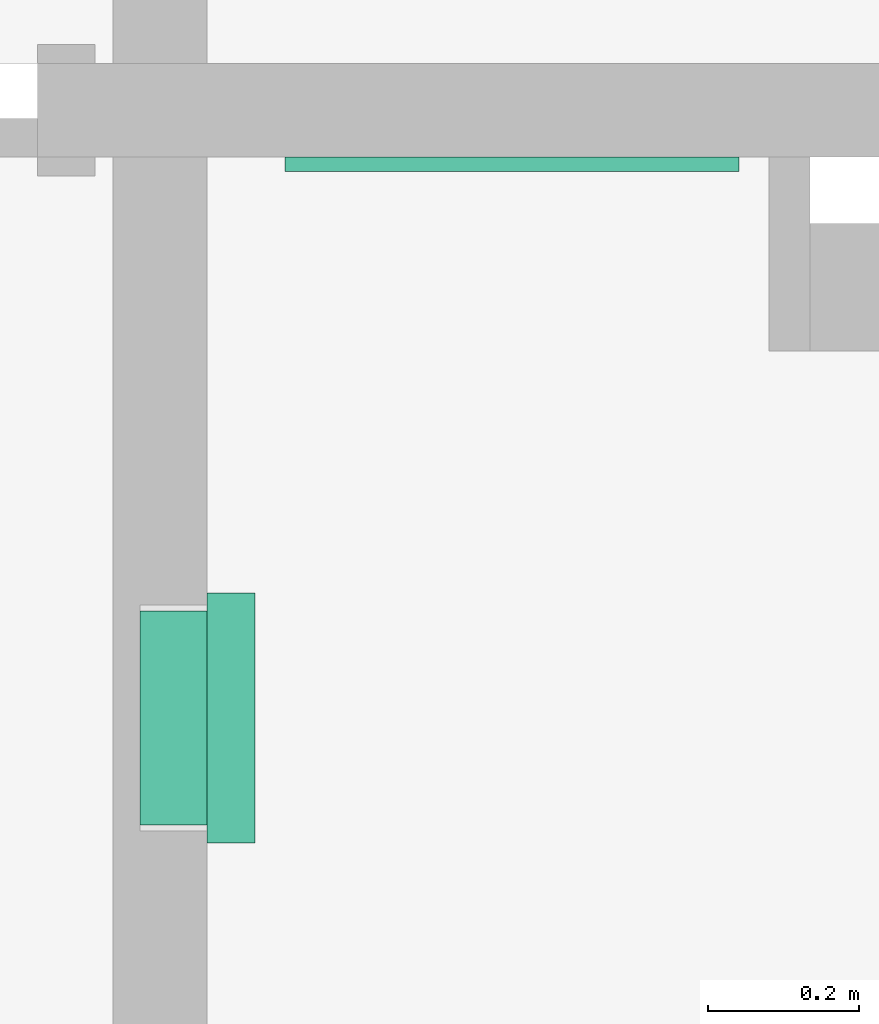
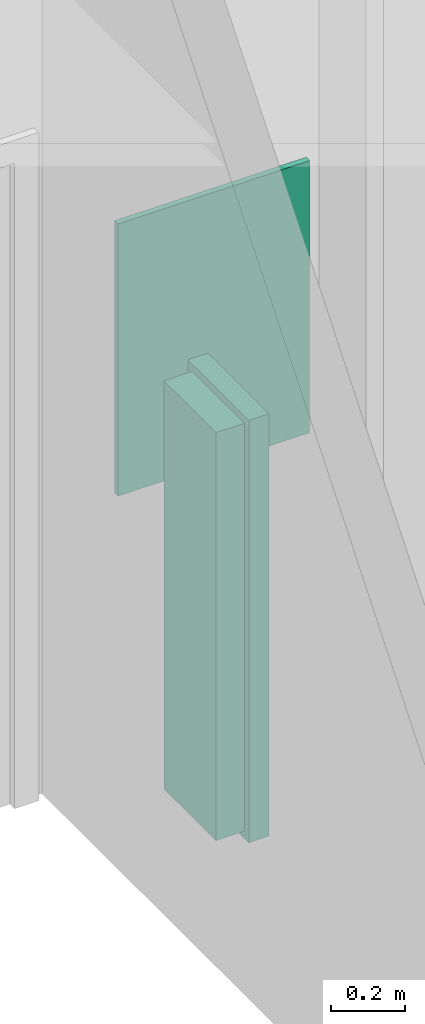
# One storey, part 32 of 47: 2 flow terminals.
"""IFC2X3 building model written with IfcOpenShell, lengths in metres."""

from ifc_helpers import new_model, entity, si_unit, converted_unit, frame, origin, origin_2d_with_axis, place, context, project, spatial, rectangle, extrude, face_set, surface_model, source, transform, mapped, type_object, type_shapes, element, save


model = new_model("IFC2X3")

# Units and contexts
model_context = context("Model", 3, precision=1e-09, world=origin())
plan_context = context("Plan", 3, precision=1e-09, world=origin())
ifc_project = project(units=[si_unit("LENGTHUNIT", "METRE"), si_unit("AREAUNIT", "SQUARE_METRE"), si_unit("VOLUMEUNIT", "CUBIC_METRE"), converted_unit("PLANEANGLEUNIT", "DEGREE", entity("IfcRatioMeasure", 0.01745329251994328), si_unit("PLANEANGLEUNIT", "RADIAN"), dimensions=[0, 0, 0, 0, 0, 0, 0]), si_unit("TIMEUNIT", "SECOND")], contexts=[model_context, plan_context])

# Site, building, storey, space
site_placement = place(None, origin())
site = spatial("IfcSite", under=ifc_project, at=site_placement, Name="Default", CompositionType="ELEMENT")
building_placement = place(site_placement, origin())
building = spatial("IfcBuilding", under=site, at=building_placement, CompositionType="ELEMENT")
storey_placement = place(building_placement, frame((0.0, 0.0, 4.570000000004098)))
storey = spatial("IfcBuildingStorey", under=building, at=storey_placement, Name="Second Floor", CompositionType="ELEMENT", Elevation=4.570000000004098)
space_placement = place(storey_placement, origin())
space = spatial("IfcSpace", under=storey, at=space_placement, Name="2D13", CompositionType="ELEMENT", InteriorOrExteriorSpace="INTERNAL")

# Flow terminals
sanitary_terminal_type_1 = type_object("IfcSanitaryTerminalType", Name="Mirror 600mm x 900mm", PredefinedType="NOTDEFINED")
shared_shape_1 = source(origin(), model_context, "Body", "SweptSolid", [
    extrude(rectangle(XDim=0.01905, YDim=0.5999999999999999, at=origin_2d_with_axis()), frame((0.02447030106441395, 0.071525, 1.0), z_axis=(0.0, 0.0, 1.0), x_axis=(0.0, -1.0, 0.0)), (0.0, 0.0, 1.0), 0.8999999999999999),
])
type_shapes(sanitary_terminal_type_1, [shared_shape_1])
flow_terminal_1_placement = place(space_placement, frame((-42.55883278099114, 13.6424387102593, -0.08499999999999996), z_axis=(0.0, 0.0, 1.0), x_axis=(-1.0, 0.0, 0.0)))
element("IfcFlowTerminal", 1, at=flow_terminal_1_placement, inside=space, type_object=sanitary_terminal_type_1, Name="M_Mirror:Mirror 600mm x 900mm:Mirror 600mm x 900mm", ObjectType="Mirror 600mm x 900mm", context=model_context, shape_type="MappedRepresentation", body=[
    mapped(shared_shape_1, transform((0.0, 0.0, 0.0), scale=1.0)),
])
sanitary_terminal_type_2 = type_object("IfcSanitaryTerminalType", Name="Semi-Recessed", PredefinedType="NOTDEFINED")
shared_shape_2 = source(origin(), model_context, "Body", "SurfaceModel", [
    surface_model("IfcFaceBasedSurfaceModel", [(0.3047999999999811, 1.371600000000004, 0.006350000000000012), (0.02539999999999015, 1.371600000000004, 0.006350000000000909), (0.02539999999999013, 0.02540000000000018, 0.006350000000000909), (0.3047999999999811, 0.02540000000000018, 0.006350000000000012), (0.3047999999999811, 1.371600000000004, 0.0), (0.02539999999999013, 1.371600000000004, 0.0), (0.02539999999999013, 0.02540000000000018, 0.0), (0.3047999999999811, 0.02540000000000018, 0.0), (0.3047999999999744, 0.8683625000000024, 0.0314087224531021), (0.304799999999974, 0.8683625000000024, 0.0), (0.304799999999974, 1.371600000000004, 0.0), (0.3047999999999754, 1.371600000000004, 0.1396999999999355), (0.3047999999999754, 0.9274310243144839, 0.139699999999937), (0.3047999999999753, 0.9028355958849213, 0.1191121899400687), (0.304799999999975, 0.8840898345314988, 0.09308548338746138), (0.3047999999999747, 0.8723562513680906, 0.06323391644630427), (0.02539999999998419, 0.8683625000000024, 0.03140872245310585), (0.02539999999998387, 0.8683625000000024, 0.0), (0.02539999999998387, 1.371600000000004, 0.0), (0.02539999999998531, 1.371600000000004, 0.1396999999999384), (0.02539999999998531, 0.9274310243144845, 0.1396999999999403), (0.02539999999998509, 0.9028355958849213, 0.1191121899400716), (0.02539999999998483, 0.8840898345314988, 0.09308548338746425), (0.02539999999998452, 0.8723562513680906, 0.06323391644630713), (0.1650999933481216, 0.8971245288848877, 0.1125374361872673), (0.244423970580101, 0.8850007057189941, 0.0947267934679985), (0.3048000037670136, 0.8934627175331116, 0.1060988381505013), (0.225727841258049, 0.8897196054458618, 0.1024402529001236), (0.1240624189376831, 0.8936511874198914, 0.1080563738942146), (0.1443802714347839, 0.89626145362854, 0.1114614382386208), (0.02539999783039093, 0.8934627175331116, 0.1060988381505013), (0.2975995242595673, 0.8728225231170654, 0.06500939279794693), (0.2961554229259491, 0.8724397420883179, 0.06352298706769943), (0.08576729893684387, 0.8849983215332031, 0.09472260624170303), (0.05923719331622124, 0.8781034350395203, 0.0805450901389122), (0.06810294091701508, 0.8800443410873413, 0.08500713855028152), (0.02539999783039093, 0.8811564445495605, 0.08562259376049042), (0.03954862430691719, 0.8766331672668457, 0.07681932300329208), (0.04958875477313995, 0.8769928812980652, 0.07776296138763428), (0.02539999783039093, 0.8782230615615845, 0.07815969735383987), (0.03264534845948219, 0.875198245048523, 0.07281118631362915), (0.02539999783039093, 0.8767563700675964, 0.0744282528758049), (0.02539999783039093, 0.87602299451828, 0.07256253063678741), (0.2946777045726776, 0.8762261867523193, 0.07572414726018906), (0.3048000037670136, 0.8767563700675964, 0.0744282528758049), (0.3048000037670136, 0.8774896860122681, 0.07629397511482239), (0.2906513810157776, 0.8717893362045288, 0.0609215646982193), (0.3048000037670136, 0.871357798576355, 0.05527761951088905), (0.3048000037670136, 0.8718570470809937, 0.05925576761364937), (0.02539999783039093, 0.874556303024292, 0.06883108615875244), (0.03170676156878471, 0.8735430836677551, 0.0675705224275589), (0.03171554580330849, 0.8739543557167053, 0.06892137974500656), (0.104461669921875, 0.889717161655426, 0.1024366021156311), (0.02539999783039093, 0.8752896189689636, 0.07069680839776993), (0.03172433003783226, 0.8743656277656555, 0.07027223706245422), (0.03218483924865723, 0.8747819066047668, 0.07154171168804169), (0.185808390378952, 0.8962624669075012, 0.1114626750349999), (0.3048000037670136, 0.8703593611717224, 0.04732131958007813), (0.2280749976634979, 0.8709259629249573, 0.05697767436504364), (0.2061262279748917, 0.8936530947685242, 0.1080589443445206), (0.3048000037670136, 0.8752896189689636, 0.07069680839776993), (0.297547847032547, 0.8752022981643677, 0.07282306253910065), (0.2980738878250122, 0.8745774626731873, 0.0708826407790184), (0.2985999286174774, 0.8739525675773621, 0.06894221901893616), (0.3048000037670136, 0.874556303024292, 0.06883108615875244), (0.2709419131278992, 0.8781068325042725, 0.08055329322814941), (0.3048000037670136, 0.8811564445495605, 0.08562259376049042), (0.2620970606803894, 0.8800443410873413, 0.08500713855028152), (0.2805894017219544, 0.8769944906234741, 0.07776710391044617), (0.3048000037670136, 0.8782230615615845, 0.07815969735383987), (0.03435983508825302, 0.8722586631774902, 0.06284872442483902), (0.02539999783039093, 0.872106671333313, 0.06124484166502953), (0.0367727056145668, 0.8719081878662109, 0.06142202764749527), (0.2906513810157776, 0.8766331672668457, 0.07681932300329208), (0.02539999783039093, 0.8718570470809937, 0.05925576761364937), (0.3048000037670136, 0.8738229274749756, 0.06696536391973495), (0.2980997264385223, 0.8733875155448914, 0.06697580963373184), (0.3048000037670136, 0.872106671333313, 0.06124484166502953), (0.2947112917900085, 0.8720570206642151, 0.06203658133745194), (0.02539999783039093, 0.8738229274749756, 0.06696536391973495), (0.3048000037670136, 0.873089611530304, 0.06509964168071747), (0.02539999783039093, 0.8774896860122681, 0.07629397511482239), (0.03438528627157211, 0.8759323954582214, 0.07491400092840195), (0.03677724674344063, 0.8764464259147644, 0.07632055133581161), (0.03261014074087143, 0.8728178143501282, 0.0649920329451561), (0.02539999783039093, 0.8703593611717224, 0.04732131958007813), (0.1650999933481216, 0.8683624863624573, 0.03140872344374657), (0.03954862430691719, 0.8717893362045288, 0.0609215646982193), (0.1021250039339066, 0.8709259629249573, 0.05697767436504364), (0.02539999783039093, 0.871357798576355, 0.05527761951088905), (0.02539999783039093, 0.873089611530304, 0.06509964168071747), (0.2961127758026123, 0.8757142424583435, 0.07427360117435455), (0.3048000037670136, 0.87602299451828, 0.07256253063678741), (0.1650999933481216, 0.8701865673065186, 0.05300865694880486), (0.03954862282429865, 0.9617593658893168, 0.06092156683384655), (0.1650999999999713, 0.9617593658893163, 0.05300865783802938), (0.2906513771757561, 0.9617593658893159, 0.06092156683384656), (0.2927086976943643, 0.9617593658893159, 0.06119241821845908), (0.2946258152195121, 0.9617593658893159, 0.06198651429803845), (0.2962720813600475, 0.9617593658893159, 0.06324973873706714), (0.2975353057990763, 0.9617593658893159, 0.06489600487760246), (0.2983294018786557, 0.9617593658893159, 0.06681312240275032), (0.2986002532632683, 0.9617593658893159, 0.06887044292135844), (0.2983294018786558, 0.9617593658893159, 0.07092776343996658), (0.2975353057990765, 0.9617593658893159, 0.0728448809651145), (0.2962720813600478, 0.9617593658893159, 0.07449114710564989), (0.2946258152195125, 0.9617593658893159, 0.07575437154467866), (0.2927086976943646, 0.9617593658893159, 0.07654846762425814), (0.2906513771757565, 0.9617593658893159, 0.07681931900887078), (0.2806776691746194, 0.9617593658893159, 0.07775040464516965), (0.2710486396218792, 0.9617593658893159, 0.0805114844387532), (0.2620970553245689, 0.9617593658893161, 0.0850071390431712), (0.2316919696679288, 0.9617593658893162, 0.1002429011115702), (0.1989754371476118, 0.9617593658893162, 0.1095287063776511), (0.1651000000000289, 0.9617593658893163, 0.1125374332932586), (0.1312245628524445, 0.9617593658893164, 0.109528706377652), (0.09850803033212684, 0.9617593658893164, 0.1002429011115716), (0.06810294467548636, 0.9617593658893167, 0.08500713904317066), (0.05915136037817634, 0.9617593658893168, 0.08051148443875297), (0.04952233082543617, 0.9617593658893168, 0.07775040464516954), (0.03954862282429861, 0.9617593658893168, 0.07681931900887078), (0.03749130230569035, 0.9617593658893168, 0.0765484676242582), (0.03557418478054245, 0.9617593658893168, 0.07575437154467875), (0.03392791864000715, 0.9617593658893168, 0.07449114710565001), (0.03266469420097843, 0.9617593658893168, 0.07284488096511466), (0.03187059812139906, 0.9617593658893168, 0.07092776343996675), (0.03159974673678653, 0.9617593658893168, 0.06887044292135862), (0.03187059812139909, 0.9617593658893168, 0.06681312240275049), (0.03266469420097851, 0.9617593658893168, 0.0648960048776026), (0.03392791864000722, 0.9617593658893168, 0.06324973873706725), (0.03557418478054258, 0.9617593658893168, 0.06198651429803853), (0.03749130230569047, 0.9617593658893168, 0.06119241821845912), (0.3302000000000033, 1.397000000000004, 0.1523999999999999), (0.0, 1.397000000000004, 0.152400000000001), (0.0, 0.0, 0.152400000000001), (0.3302000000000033, 0.0, 0.1523999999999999), (0.03175000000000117, 0.7016793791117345, 0.1524000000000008), (0.03175000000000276, 0.8960819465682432, 0.1524000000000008), (0.03192255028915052, 0.8975521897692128, 0.1524000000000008), (0.03243082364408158, 0.8989425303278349, 0.1524000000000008), (0.03324719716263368, 0.9001774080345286, 0.1524000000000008), (0.03432730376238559, 0.9011897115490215, 0.1524000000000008), (0.03561244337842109, 0.9019244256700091, 0.1524000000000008), (0.03703277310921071, 0.9023416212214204, 0.1524000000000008), (0.1222300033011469, 0.9119737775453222, 0.1524000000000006), (0.2079699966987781, 0.911973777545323, 0.1524000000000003), (0.2931672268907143, 0.902341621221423, 0.1524), (0.2945875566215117, 0.9019244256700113, 0.1524), (0.2958726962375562, 0.9011897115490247, 0.1524), (0.2969528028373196, 0.9001774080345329, 0.1524), (0.297769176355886, 0.8989425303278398, 0.1524), (0.2982774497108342, 0.8975521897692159, 0.1524), (0.2984500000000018, 0.8960819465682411, 0.1524), (0.2984500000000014, 0.7016793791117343, 0.1524), (0.2982774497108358, 0.7002091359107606, 0.1524), (0.2977691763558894, 0.6988187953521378, 0.1524), (0.2969528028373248, 0.697583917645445, 0.1524), (0.2958726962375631, 0.6965716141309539, 0.1524), (0.29458755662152, 0.6958369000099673, 0.1524), (0.2931672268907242, 0.6954197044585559, 0.1524), (0.2079699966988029, 0.6857875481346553, 0.1524000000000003), (0.1222300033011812, 0.6857875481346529, 0.1524000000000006), (0.03703277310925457, 0.6954197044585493, 0.1524000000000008), (0.03561244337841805, 0.6958369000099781, 0.1524000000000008), (0.0343273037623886, 0.6965716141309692, 0.1524000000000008), (0.03324719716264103, 0.6975839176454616, 0.1524000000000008), (0.03243082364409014, 0.698818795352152, 0.1524000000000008), (0.03192255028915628, 0.7002091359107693, 0.1524000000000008), (0.3063874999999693, 1.373187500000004, 0.0), (0.02381249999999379, 1.373187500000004, 0.0), (0.02381249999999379, 0.02381250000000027, 0.0), (0.3063874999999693, 0.02381250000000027, 0.0), (0.3047999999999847, 1.371600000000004, 0.0), (0.3047999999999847, 0.02540000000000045, 0.0), (0.02539999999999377, 0.02540000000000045, 0.0), (0.02539999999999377, 1.371600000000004, 0.0), (0.304799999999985, 1.371600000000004, 0.08889999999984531), (0.3047999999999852, 1.371600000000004, 0.1396999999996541), (0.3047999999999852, 0.02540000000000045, 0.1396999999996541), (0.304799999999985, 0.02540000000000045, 0.08889999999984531), (0.02539999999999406, 0.02540000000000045, 0.08889999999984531), (0.02539999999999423, 0.02540000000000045, 0.139699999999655), (0.02539999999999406, 1.371600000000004, 0.08889999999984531), (0.02539999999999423, 1.371600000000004, 0.139699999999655), (0.02381249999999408, 1.373187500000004, 0.08889999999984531), (0.3063874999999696, 1.373187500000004, 0.08889999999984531), (0.02381249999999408, 0.02381250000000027, 0.08889999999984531), (0.3063874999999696, 0.02381250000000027, 0.08889999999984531), (0.3302000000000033, 1.397000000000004, 0.08889999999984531), (0.0, 1.397000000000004, 0.08889999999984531), (0.0, 0.0, 0.08889999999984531), (0.3302000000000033, 0.0, 0.08889999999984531), (0.3302000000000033, 1.397000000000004, 0.1396999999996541), (0.0, 1.397000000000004, 0.1396999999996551), (0.0, 0.0, 0.1396999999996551), (0.3302000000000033, 0.0, 0.1396999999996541), (0.0317500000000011, 0.7016793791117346, 0.139699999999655), (0.03175000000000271, 0.8960819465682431, 0.139699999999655), (0.03192255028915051, 0.8975521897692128, 0.139699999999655), (0.03243082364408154, 0.8989425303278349, 0.139699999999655), (0.03324719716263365, 0.9001774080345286, 0.139699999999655), (0.03432730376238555, 0.9011897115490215, 0.139699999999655), (0.03561244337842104, 0.9019244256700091, 0.139699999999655), (0.03703277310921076, 0.9023416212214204, 0.139699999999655), (0.1222300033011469, 0.9119737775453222, 0.1396999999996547), (0.207969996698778, 0.911973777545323, 0.1396999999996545), (0.2931672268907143, 0.902341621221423, 0.1396999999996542), (0.2945875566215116, 0.9019244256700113, 0.1396999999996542), (0.2958726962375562, 0.9011897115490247, 0.1396999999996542), (0.2969528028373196, 0.9001774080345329, 0.1396999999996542), (0.2977691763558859, 0.8989425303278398, 0.1396999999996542), (0.2982774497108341, 0.8975521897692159, 0.1396999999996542), (0.2984500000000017, 0.8960819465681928, 0.1396999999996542), (0.2984500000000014, 0.7016793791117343, 0.1396999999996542), (0.2982774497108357, 0.7002091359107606, 0.1396999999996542), (0.2977691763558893, 0.6988187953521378, 0.1396999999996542), (0.2969528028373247, 0.697583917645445, 0.1396999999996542), (0.295872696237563, 0.6965716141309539, 0.1396999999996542), (0.29458755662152, 0.6958369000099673, 0.1396999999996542), (0.2931672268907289, 0.6954197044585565, 0.1396999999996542), (0.2079699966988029, 0.6857875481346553, 0.1396999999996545), (0.1222300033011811, 0.6857875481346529, 0.1396999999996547), (0.0370327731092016, 0.6954197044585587, 0.139699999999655), (0.03561244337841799, 0.6958369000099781, 0.139699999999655), (0.03432730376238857, 0.6965716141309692, 0.139699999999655), (0.03324719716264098, 0.6975839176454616, 0.139699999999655), (0.03243082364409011, 0.698818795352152, 0.139699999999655), (0.03192255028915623, 0.7002091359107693, 0.139699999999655), (0.02698749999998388, 0.6774923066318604, 0.1206361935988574), (0.02698749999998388, 0.6858000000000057, 0.1206361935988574), (0.02698749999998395, 0.6858000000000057, 0.1397000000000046), (0.02698749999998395, 0.0253999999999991, 0.1397000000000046), (0.02698749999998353, 0.0253999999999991, 0.007937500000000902), (0.02698749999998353, 0.7076898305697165, 0.007937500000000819), (0.3032124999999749, 0.6774923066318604, 0.1206361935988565), (0.3032124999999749, 0.6858000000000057, 0.1206361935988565), (0.3032124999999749, 0.6858000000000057, 0.1397000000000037), (0.3032124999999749, 0.0253999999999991, 0.1397000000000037), (0.3032124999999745, 0.0253999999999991, 0.007937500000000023), (0.3032124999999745, 0.7076898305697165, 0.007937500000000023)], [face_set([[[0, 1, 2, 3]], [[4, 5, 6, 7]], [[1, 0, 4, 5]], [[2, 6, 5, 1]], [[3, 7, 6, 2]], [[0, 3, 7, 4]]]), face_set([[[8, 9, 10, 11, 12, 13, 14, 15]], [[16, 17, 18, 19, 20, 21, 22, 23]], [[9, 8, 16, 17]], [[10, 18, 17, 9]], [[11, 19, 18, 10]], [[12, 11, 19, 20]], [[24, 20, 21]], [[25, 26, 27]], [[28, 29, 21]], [[28, 21, 30]], [[15, 31, 32]], [[22, 33, 30]], [[24, 21, 29]], [[34, 35, 36]], [[37, 38, 39]], [[40, 41, 42]], [[39, 38, 34]], [[22, 35, 33]], [[39, 34, 36]], [[43, 44, 45]], [[46, 47, 48]], [[49, 50, 51]], [[33, 52, 30]], [[53, 54, 55]], [[24, 56, 13]], [[57, 47, 58]], [[24, 13, 12]], [[13, 56, 59]], [[59, 27, 26]], [[60, 61, 62]], [[62, 63, 64]], [[24, 12, 20]], [[55, 42, 53]], [[65, 66, 67]], [[25, 67, 14]], [[25, 14, 26]], [[65, 68, 69]], [[66, 65, 69]], [[70, 71, 72]], [[69, 68, 73]], [[72, 71, 74]], [[26, 13, 59]], [[54, 53, 49]], [[64, 60, 62]], [[75, 63, 76]], [[46, 77, 78]], [[79, 50, 49]], [[80, 76, 31]], [[39, 81, 37]], [[41, 82, 81]], [[49, 51, 54]], [[81, 82, 83]], [[40, 82, 41]], [[70, 84, 23]], [[84, 50, 79]], [[85, 16, 86]], [[28, 30, 52]], [[70, 23, 71]], [[87, 72, 74]], [[85, 88, 89]], [[87, 89, 88]], [[74, 89, 87]], [[84, 90, 23]], [[58, 47, 46]], [[35, 22, 36]], [[63, 75, 64]], [[91, 61, 92]], [[45, 73, 43]], [[80, 75, 76]], [[61, 60, 92]], [[15, 32, 78]], [[45, 69, 73]], [[92, 44, 91]], [[66, 14, 67]], [[84, 79, 90]], [[85, 93, 88]], [[86, 57, 93]], [[31, 15, 80]], [[77, 15, 78]], [[42, 55, 40]], [[58, 93, 57]], [[77, 46, 48]], [[8, 57, 86]], [[37, 81, 83]], [[44, 43, 91]], [[85, 86, 93]], [[94, 95, 96, 97, 98, 99, 100, 101, 102, 103, 104, 105, 106, 107, 108, 109, 110, 111, 112, 113, 114, 115, 116, 117, 118, 119, 120, 121, 122, 123, 124, 125, 126, 127, 128, 129, 130, 131]], [[95, 94, 87, 88, 93]], [[96, 95, 93, 58, 46]], [[46, 96, 97]], [[78, 98, 99]], [[97, 98, 78]], [[99, 100, 31]], [[46, 97, 78]], [[63, 31, 101]], [[31, 78, 99]], [[63, 101, 102]], [[101, 31, 100]], [[61, 104, 105]], [[43, 106, 107]], [[105, 106, 43]], [[73, 107, 108]], [[63, 103, 61]], [[103, 63, 102]], [[61, 103, 104]], [[61, 105, 43]], [[107, 73, 43]], [[108, 68, 73]], [[68, 108, 109]], [[109, 65, 68]], [[110, 67, 65]], [[67, 110, 111]], [[109, 110, 65]], [[111, 112, 25]], [[25, 67, 111]], [[27, 25, 112]], [[112, 59, 27]], [[113, 114, 56]], [[56, 59, 113]], [[24, 56, 114]], [[113, 59, 112]], [[114, 115, 29]], [[29, 24, 114]], [[28, 29, 115]], [[115, 116, 28]], [[116, 117, 33]], [[33, 52, 116]], [[35, 33, 117]], [[116, 52, 28]], [[118, 34, 35]], [[35, 117, 118]], [[118, 119, 34]], [[120, 37, 38]], [[38, 119, 120]], [[34, 119, 38]], [[37, 120, 121]], [[82, 122, 123]], [[121, 122, 83]], [[123, 124, 40]], [[37, 121, 83]], [[83, 122, 82]], [[40, 125, 54]], [[40, 82, 123]], [[54, 125, 126]], [[40, 124, 125]], [[84, 127, 128]], [[129, 84, 128]], [[72, 130, 131]], [[129, 130, 70]], [[87, 131, 94]], [[127, 50, 126]], [[127, 84, 50]], [[126, 50, 54]], [[70, 84, 129]], [[130, 72, 70]], [[131, 87, 72]]]), face_set([[[132, 133, 134, 135], [136, 137, 138, 139, 140, 141, 142, 143, 144, 145, 146, 147, 148, 149, 150, 151, 152, 153, 154, 155, 156, 157, 158, 159, 160, 161, 162, 163, 164, 165, 166, 167]], [[168, 169, 170, 171], [172, 173, 174, 175]], [[172, 176, 177, 178, 179, 173]], [[173, 174, 180, 181, 178, 179]], [[174, 175, 182, 183, 181, 180]], [[175, 182, 183, 177, 176, 172]], [[168, 169, 184, 185]], [[169, 184, 186, 170]], [[170, 186, 187, 171]], [[171, 168, 185, 187]], [[188, 189, 190, 191], [185, 187, 186, 184]], [[133, 132, 192, 188, 189, 193]], [[134, 133, 193, 189, 190, 194]], [[135, 134, 194, 190, 191, 195]], [[132, 135, 195, 191, 188, 192]], [[177, 183, 181, 178], [196, 197, 198, 199, 200, 201, 202, 203, 204, 205, 206, 207, 208, 209, 210, 211, 212, 213, 214, 215, 216, 217, 218, 219, 220, 221, 222, 223, 224, 225, 226, 227]], [[137, 136, 196, 197]], [[198, 197, 137, 138]], [[199, 198, 138, 139]], [[139, 140, 200, 199]], [[202, 201, 141, 142]], [[203, 202, 142, 143]], [[140, 141, 201, 200]], [[203, 143, 144, 204]], [[145, 205, 204, 144]], [[205, 145, 146, 206]], [[207, 206, 146, 147]], [[208, 207, 147, 148]], [[148, 149, 209, 208]], [[212, 211, 151, 152]], [[211, 210, 150, 151]], [[149, 150, 210, 209]], [[153, 213, 212, 152]], [[214, 213, 153, 154]], [[215, 214, 154, 155]], [[155, 156, 216, 215]], [[218, 217, 157, 158]], [[219, 218, 158, 159]], [[156, 157, 217, 216]], [[219, 159, 160, 220]], [[161, 221, 220, 160]], [[221, 161, 162, 222]], [[223, 222, 162, 163]], [[224, 223, 163, 164]], [[164, 165, 225, 224]], [[227, 226, 166, 167]], [[196, 227, 167, 136]], [[165, 166, 226, 225]]]), face_set([[[228, 229, 230, 231, 232, 233]], [[234, 235, 236, 237, 238, 239]], [[233, 228, 234, 239]], [[232, 238, 239, 233]], [[231, 237, 238, 232]], [[230, 231, 237, 236]], [[229, 230, 236, 235]], [[228, 234, 235, 229]]])]),
])
type_shapes(sanitary_terminal_type_2, [shared_shape_2])
flow_terminal_2_placement = place(space_placement, frame((-43.07490000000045, 12.67423871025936, 0.3428999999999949), z_axis=(1.0, 0.0, 0.0), x_axis=(0.0, 1.0, 0.0)))
element("IfcFlowTerminal", 2, at=flow_terminal_2_placement, inside=space, type_object=sanitary_terminal_type_2, Name="M_Towel Dispensers - receptical:Semi-Recessed:Semi-Recessed", ObjectType="Semi-Recessed", context=model_context, shape_type="MappedRepresentation", body=[
    mapped(shared_shape_2, transform((0.0, 0.0, 0.0), scale=1.0)),
])

save(model, "model.ifc")
